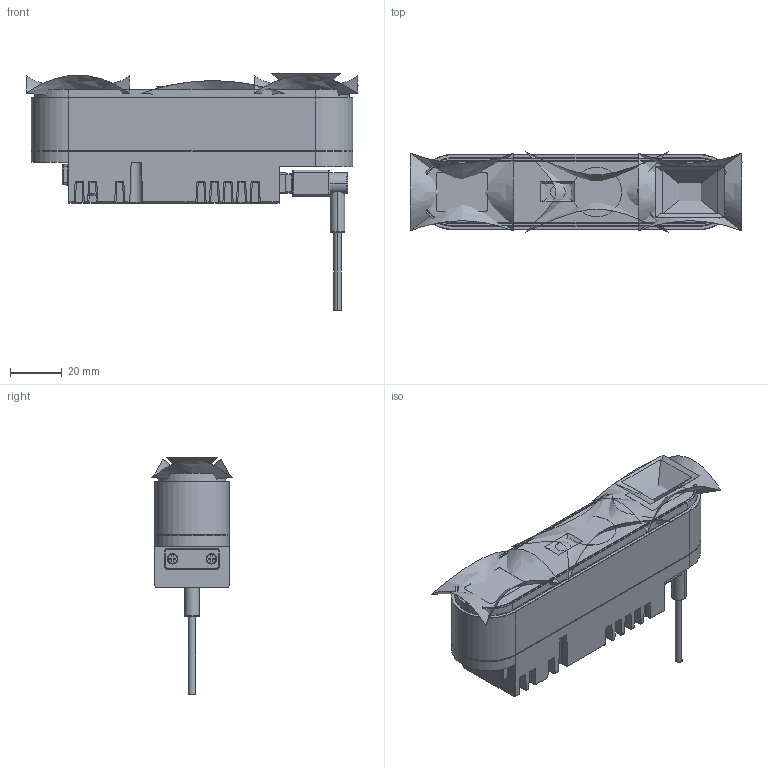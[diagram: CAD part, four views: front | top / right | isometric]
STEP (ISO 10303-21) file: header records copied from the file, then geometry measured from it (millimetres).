
FILE_DESCRIPTION((''),'2;1');
FILE_NAME('GEMINI_345LG_ALL_ASM','2025-08-26T10:02:53',('xiangshaocheng'),(''),'CREO PARAMETRIC BY PTC INC, 2021284','CREO PARAMETRIC BY PTC INC, 2021284','');
FILE_SCHEMA(('CONFIG_CONTROL_DESIGN','SHAPE_APPEARANCE_LAYERS_GROUPS'));
Products named in the file (17): GEMINI_345LG_FRONT; GEMINI_345LG_LENS; GEMINI_345LG_FRONT_ASM; GEMINI_345LG_LDM_FOV; GEMINI_345LG_RGB_FOV; GEMINI_345LG_IR_FOV; GEMINI_345LG_IR_ASM; GEMINI_345LG_FOV_ASM; GEMINI_345LG_REAR; GEMINI_345LG_USB_REAR; M2_4_SCREW; GEMINI_345LG_USB_REAR_ASM; M2_7_SCREW; FAKRA; GEMINI_345LG_REAR_ASM; FAKRA_COVER; GEMINI_345LG_ALL_ASM
Assembly tree (21 placements, depth 4):
  GEMINI_345LG_ALL_ASM
    GEMINI_345LG_FRONT_ASM
      GEMINI_345LG_FRONT
      GEMINI_345LG_LENS
    GEMINI_345LG_FOV_ASM
      GEMINI_345LG_LDM_FOV
      GEMINI_345LG_RGB_FOV
      GEMINI_345LG_IR_ASM  x2
        GEMINI_345LG_IR_FOV
    GEMINI_345LG_REAR_ASM
      GEMINI_345LG_REAR
      GEMINI_345LG_USB_REAR_ASM
        GEMINI_345LG_USB_REAR
        M2_4_SCREW  x2
      M2_7_SCREW  x4
      FAKRA
    FAKRA_COVER
Bounding box: 128 x 31.09 x 91.3 mm (x, y, z)
Volume: 46086 mm3; surface area: 53594.8 mm2
Topology: 12 solids, 31 shells, 2453 faces, 6399 edges, 3999 vertices
Faces by surface type: plane 696, cylinder 666, cone 450, bspline 369, torus 230, sphere 39, extrusion 3
Entity records: 110938 total; most frequent: CARTESIAN_POINT 35686, ORIENTED_EDGE 12106, DIRECTION 11474, EDGE_CURVE 6080, AXIS2_PLACEMENT_3D 4451, VERTEX_POINT 3831, PRESENTATION_STYLE_ASSIGNMENT 3649, STYLED_ITEM 3315
